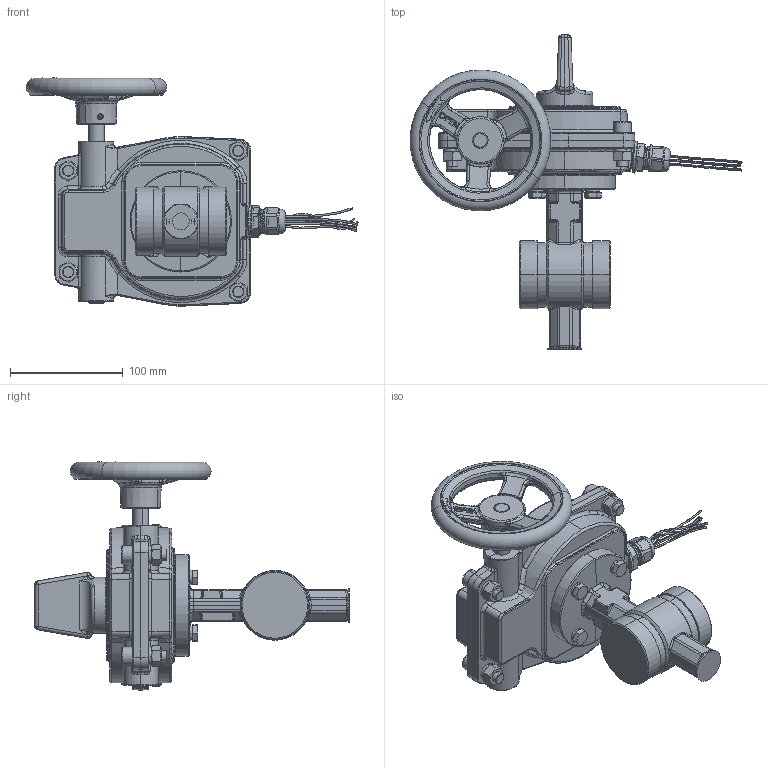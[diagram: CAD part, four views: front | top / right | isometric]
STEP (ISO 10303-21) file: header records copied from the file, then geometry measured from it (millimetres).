
FILE_DESCRIPTION (( 'STEP AP214' ), '1' );
FILE_NAME ('933XD381XD60.STEP', '2024-04-16T02:53:55', ( '' ), ( '' ), 'SwSTEP 2.0', 'SolidWorks 2018', '' );
FILE_SCHEMA (( 'AUTOMOTIVE_DESIGN' ));
Length unit declared in the file: millimetre
Products named in the file (19): 922WGZ14X190-01-0-T.STEP; 922SL125-01-0-T.STEP; 901WGD100-01-1-T.STEP; spring lock washers--normal type gb_GB_FASTENER_WASHER_SW 8.STEP; MFD21D8X2.STEP; 陓瘍盄123; hex head bolts-full thread grade c gb_GB_FASTENER_BOLT_HHBFTC M8X25-N.STEP; 933XD381XD60; 901-WXL-RD-D100.STEP; 280S15.STEP; 901wzspd100-01-2-t.STEP; 933XD381XD60.STEP; 922DT30X1.5.STEP; spring lock washers--normal type gb_GB_FASTENER_WASHER_SW 10.STEP; hexagon socket head cap screws gb_GB_FASTENER_SCREWS_HSHCS M10X30-N.STEP; 901WXTD100-01-1-T.STEP; 922D14-6B60.STEP; hex nuts, style 1-grades ab gb_GB_FASTENER_NUT_SNAB1 M10-N.STEP; 922WWG40X14.STEP
Assembly tree (33 placements, depth 4):
  933XD381XD60
    933XD381XD60.STEP
      901-WXL-RD-D100.STEP
        901WXTD100-01-1-T.STEP
        901WGD100-01-1-T.STEP
        922WWG40X14.STEP
        922SL125-01-0-T.STEP
        922WGZ14X190-01-0-T.STEP
        901wzspd100-01-2-t.STEP
        hexagon socket head cap screws gb_GB_FASTENER_SCREWS_HSHCS M10X30-N.STEP  x4
        spring lock washers--normal type gb_GB_FASTENER_WASHER_SW 10.STEP  x4
        hex nuts, style 1-grades ab gb_GB_FASTENER_NUT_SNAB1 M10-N.STEP  x4
        280S15.STEP
        MFD21D8X2.STEP
      922D14-6B60.STEP
      922DT30X1.5.STEP
      spring lock washers--normal type gb_GB_FASTENER_WASHER_SW 8.STEP  x4
      hex head bolts-full thread grade c gb_GB_FASTENER_BOLT_HHBFTC M8X25-N.STEP  x4
    陓瘍盄123
Bounding box: 294.63 x 279 x 202.56 mm (x, y, z)
Volume: 1156156.5 mm3; surface area: 283742.8 mm2
Topology: 37 solids, 49 shells, 2555 faces, 6134 edges, 3679 vertices
Faces by surface type: bspline 821, plane 582, cylinder 543, cone 280, torus 199, sphere 130
Entity records: 125898 total; most frequent: CARTESIAN_POINT 79487, ORIENTED_EDGE 11008, DIRECTION 6948, EDGE_CURVE 5518, VERTEX_POINT 3322, AXIS2_PLACEMENT_3D 2868, B_SPLINE_CURVE_WITH_KNOTS 2786, EDGE_LOOP 2400
